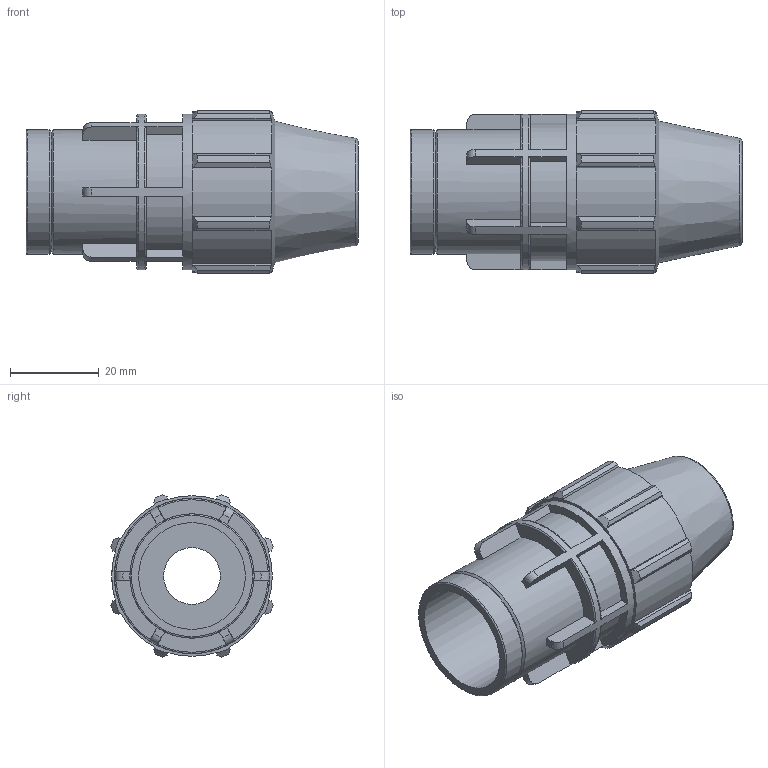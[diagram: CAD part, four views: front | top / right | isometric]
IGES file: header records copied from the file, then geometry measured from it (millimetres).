
Global section: file name: 070306016007.ipt; native system: Autodesk Inventor 2015; preprocessor: unknown; author: KIM; date: 20170606.110446; units: millimetre
Bounding box: 75 x 36.7 x 36.7 mm (x, y, z)
Volume: 37593.9 mm3; surface area: 14475.8 mm2
Topology: 1 solids, 1 shells, 148 faces, 413 edges, 277 vertices
Faces by surface type: plane 86, revolution 25, cylinder 25, cone 12
Full cylindrical faces by diameter (mm): 28.08 x2, 35.1 x1
